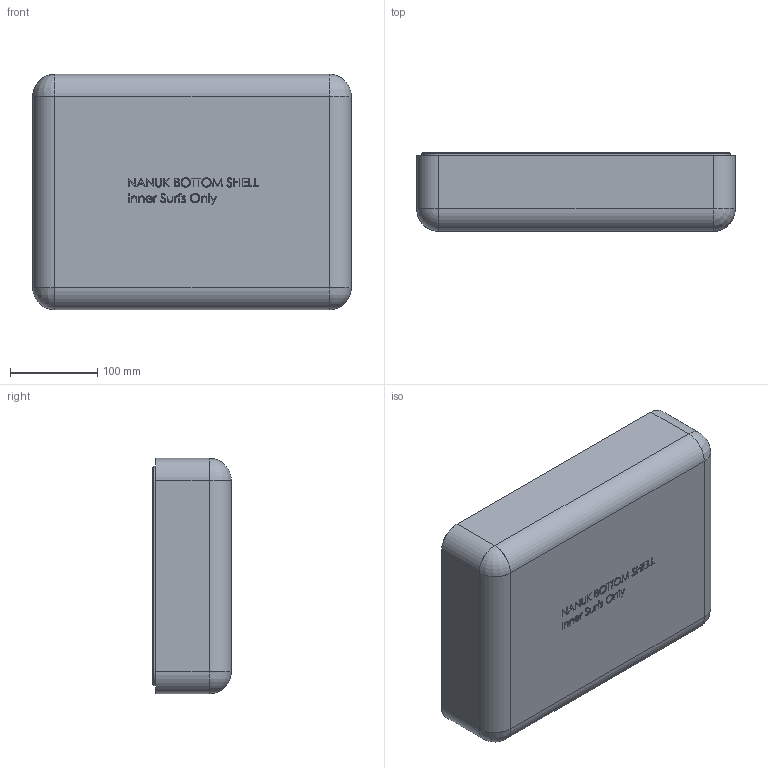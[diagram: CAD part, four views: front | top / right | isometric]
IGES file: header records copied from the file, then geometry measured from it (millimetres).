
Start section: SolidWorks IGES file using analytic representation for surfaces
Global section: file name: C:\Users\bcoley\Desktop\Cases from server\Cases\910\NDA Required\INNER SURFS\NANUK_910_Bottom Shell_INNER SURFS_IGES.IGS; native system: SolidWorks 2012; preprocessor: SolidWorks 2012; author: bcoley; date: 130316.150122; units: inch
Bounding box: 364.47 x 89.92 x 269.49 mm (x, y, z)
Surface area: 369892.3 mm2 (no closed solid volume)
Topology: 0 solids, 0 shells, 1036 faces, 12094 edges, 12084 vertices
Faces by surface type: bspline 821, revolution 215
